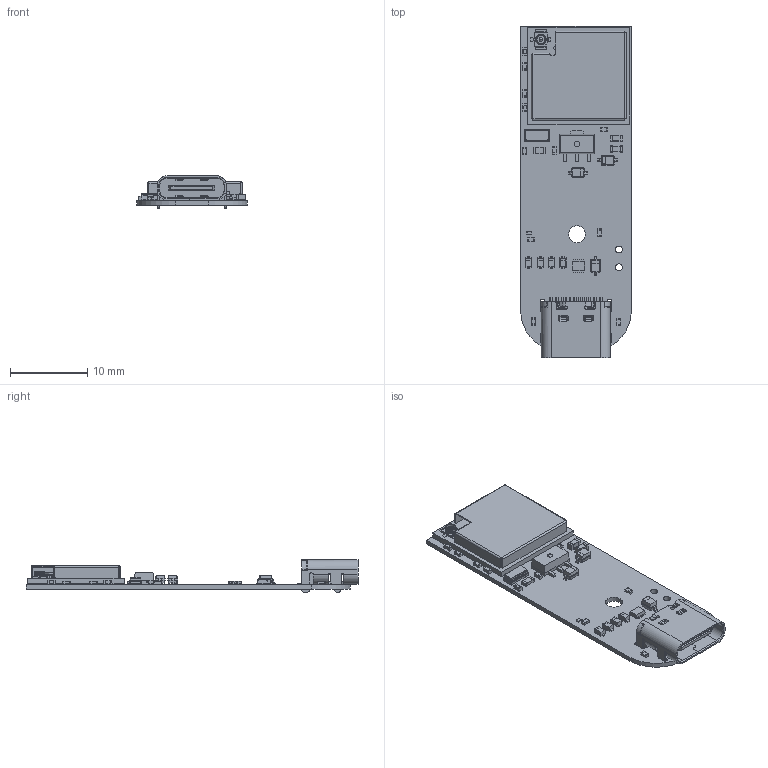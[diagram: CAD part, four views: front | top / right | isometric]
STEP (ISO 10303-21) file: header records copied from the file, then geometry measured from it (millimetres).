
FILE_DESCRIPTION(('KiCad electronic assembly'),'2;1');
FILE_NAME('dronescout_wlan_ble_board.step','2024-11-13T11:54:16',( 'Pcbnew'),('Kicad'),'Open CASCADE STEP processor 7.8', 'KiCad to STEP converter','Unknown');
FILE_SCHEMA(('AUTOMOTIVE_DESIGN { 1 0 10303 214 1 1 1 1 }'));
Length unit declared in the file: millimetre
Products named in the file (29): dronescout_wlan_ble_board 1; SOT-666; SOT_666; SOT-89-3; CQ assembly; C_0402_1005Metric; R_0402_1005Metric; ESP32-C3-MINI-1U; ESP32-C3-MINI-1U_20210906; D_SOD-523; D_SOD_523; D_SOD-323; D_SOD_323; C_0603_1608Metric; LED_0201_0603Metric; Crystal_SMD_3215-2Pin_3.2x1.5mm; R_0603_1608Metric; HRO_TYPE-C-31-M-12; ConPins; PcbPins; Mold; Frame; _autosave-dronescout_wlan_ble_board_PCB
Assembly tree (43 placements, depth 3):
  dronescout_wlan_ble_board 1
    SOT-666
      SOT_666
    SOT-89-3
      CQ assembly
    C_0402_1005Metric  x4
      C_0402_1005Metric
    R_0402_1005Metric  x7
      R_0402_1005Metric
    ESP32-C3-MINI-1U
      ESP32-C3-MINI-1U_20210906
    D_SOD-523  x4
      D_SOD_523
    D_SOD-323  x3
      D_SOD_323
    C_0603_1608Metric  x2
      C_0603_1608Metric
    LED_0201_0603Metric
      LED_0201_0603Metric
    Crystal_SMD_3215-2Pin_3.2x1.5mm
      Crystal_SMD_3215-2Pin_3.2x1.5mm
    R_0603_1608Metric
      R_0603_1608Metric
    HRO_TYPE-C-31-M-12
      ConPins
      PcbPins
      Mold
      Frame
    _autosave-dronescout_wlan_ble_board_PCB
Bounding box: 14.3 x 43 x 4.2 mm (x, y, z)
Volume: 662 mm3; surface area: 3028.9 mm2
Topology: 214 solids, 215 shells, 3881 faces, 9311 edges, 5800 vertices
Faces by surface type: plane 2513, cylinder 955, bspline 186, sphere 144, torus 66, cone 15, revolution 2
Full cylindrical faces by diameter (mm): 0.5 x2, 0.65 x2, 0.7 x1, 0.9 x2, 2.2 x1
Entity records: 104513 total; most frequent: CARTESIAN_POINT 21009, DIRECTION 16226, ORIENTED_EDGE 15958, EDGE_CURVE 7979, LINE 5986, VECTOR 5986, AXIS2_PLACEMENT_3D 5119, VERTEX_POINT 5052
